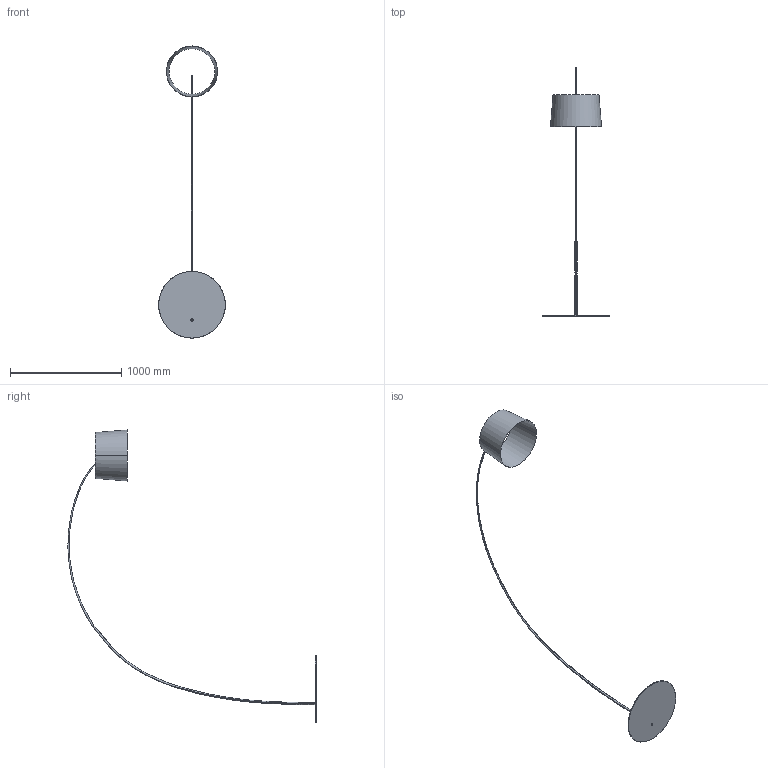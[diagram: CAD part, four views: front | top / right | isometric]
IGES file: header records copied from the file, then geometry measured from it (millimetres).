
Start section: SolidWorks IGES file using analytic representation for surfaces
Global section: file name: F:\foscarini\RS\0_ 3D-2D\FOSCARINI\CATALOGO\TWIGGY ELLE\TWIGGY ELLE_terra.IGS; native system: SolidWorks 2020; preprocessor: SolidWorks 2020; author: m.tonasso; date: 200212.125118; units: millimetre
Bounding box: 600 x 2233.87 x 2630 mm (x, y, z)
Surface area: 1700558.5 mm2 (no closed solid volume)
Topology: 0 solids, 0 shells, 32 faces, 719 edges, 719 vertices
Faces by surface type: revolution 18, bspline 14
